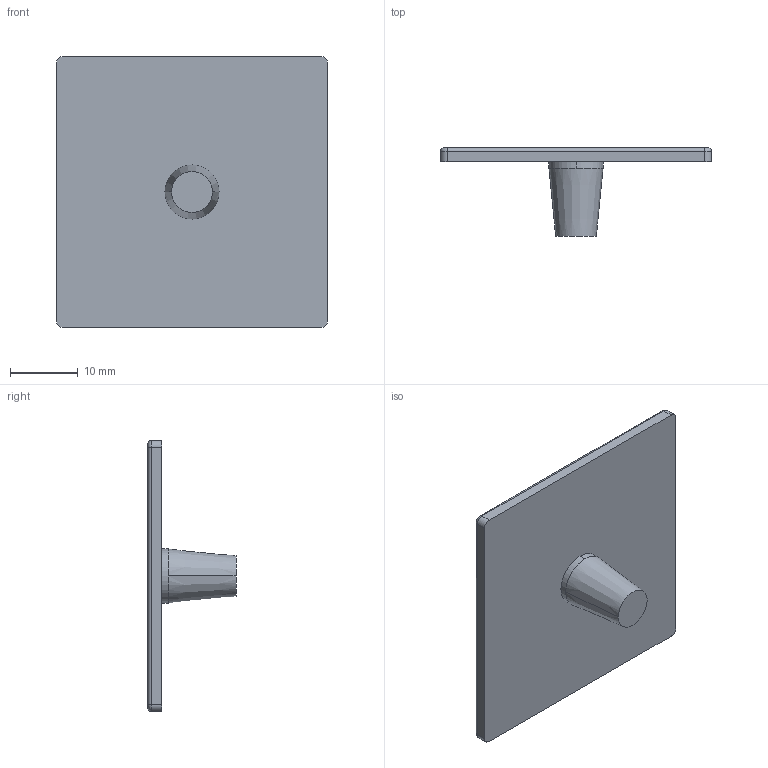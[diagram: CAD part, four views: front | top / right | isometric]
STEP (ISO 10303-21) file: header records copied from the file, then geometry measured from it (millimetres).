
FILE_DESCRIPTION (( 'STEP AP214' ), '1' );
FILE_NAME ('TCBE 40 G NLOGO Cover cap 40x40 grey No Logo.STEP', '2021-05-31T15:00:34', ( '' ), ( '' ), 'SwSTEP 2.0', 'SolidWorks 2020', '' );
FILE_SCHEMA (( 'AUTOMOTIVE_DESIGN' ));
Length unit declared in the file: millimetre
Products named in the file (1): TCBE 40 G NLOGO Cover cap 40x40 grey No Logo
Bounding box: 40 x 13 x 40 mm (x, y, z)
Volume: 3627.6 mm3; surface area: 3704.9 mm2
Topology: 1 solids, 1 shells, 23 faces, 52 edges, 32 vertices
Faces by surface type: cylinder 10, plane 7, torus 4, cone 2
Entity records: 684 total; most frequent: DIRECTION 128, CARTESIAN_POINT 108, ORIENTED_EDGE 104, EDGE_CURVE 52, AXIS2_PLACEMENT_3D 52, VERTEX_POINT 32, CIRCLE 28, EDGE_LOOP 24
